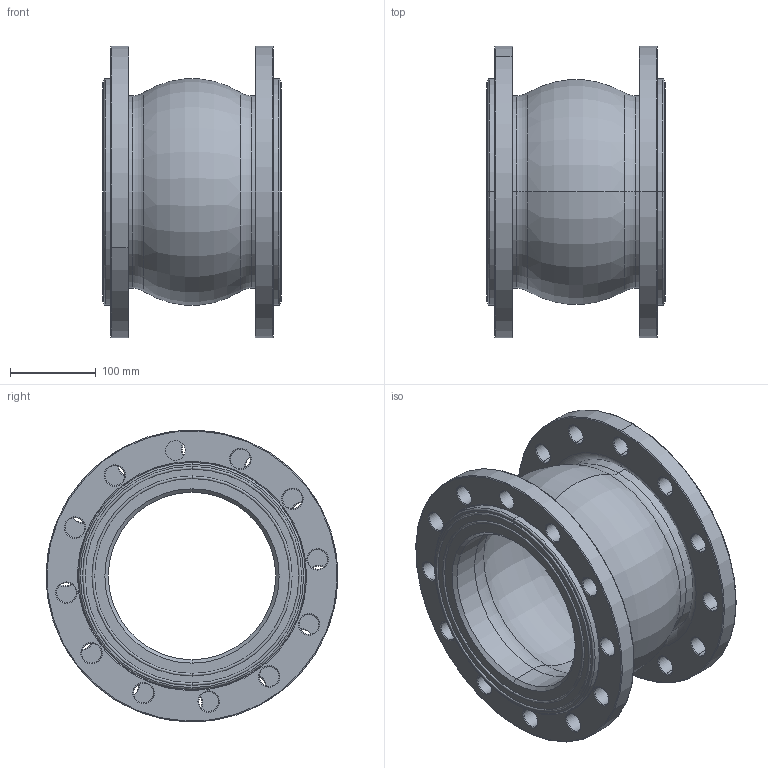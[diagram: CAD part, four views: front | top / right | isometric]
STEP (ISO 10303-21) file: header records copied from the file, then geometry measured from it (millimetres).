
FILE_DESCRIPTION (( 'STEP AP203' ), '1' );
FILE_NAME ('DN200 PN16.STEP', '2026-07-16T06:19:16', ( 'Windows 蚚誧' ), ( '' ), 'SwSTEP 2.0', 'SolidWorks 2018', '' );
FILE_SCHEMA (( 'CONFIG_CONTROL_DESIGN' ));
Length unit declared in the file: millimetre
Products named in the file (3): DN200 PN16; DN200
Assembly tree (3 placements, depth 2):
  DN200 PN16
    DN200
    DN200 PN16  x2
Bounding box: 208 x 340 x 340 mm (x, y, z)
Volume: 4311146.3 mm3; surface area: 708684.1 mm2
Topology: 3 solids, 3 shells, 252 faces, 552 edges, 316 vertices
Faces by surface type: torus 152, cylinder 76, plane 16, cone 8
Entity records: 4741 total; most frequent: DIRECTION 956, CARTESIAN_POINT 698, ORIENTED_EDGE 680, AXIS2_PLACEMENT_3D 452, EDGE_CURVE 340, CIRCLE 288, EDGE_LOOP 194, VERTEX_POINT 194
